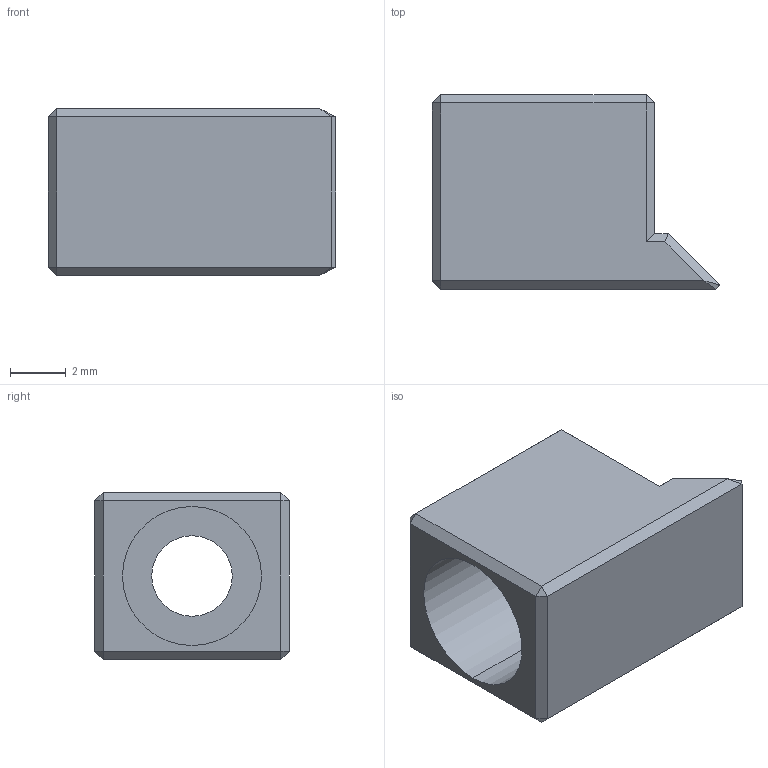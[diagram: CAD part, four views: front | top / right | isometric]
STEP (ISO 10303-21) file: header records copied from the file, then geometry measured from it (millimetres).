
FILE_DESCRIPTION (( 'STEP AP214' ), '1' );
FILE_NAME ('Ëø½ô¿é.STEP', '2026-07-03T01:31:57', ( '' ), ( '' ), 'SwSTEP 2.0', 'SolidWorks 2024', '' );
FILE_SCHEMA (( 'AUTOMOTIVE_DESIGN' ));
Length unit declared in the file: millimetre
Products named in the file (1): 锁紧块
Bounding box: 10.35 x 7 x 6 mm (x, y, z)
Volume: 212.6 mm3; surface area: 406.4 mm2
Topology: 1 solids, 1 shells, 37 faces, 74 edges, 40 vertices
Faces by surface type: plane 33, cylinder 4
Entity records: 939 total; most frequent: DIRECTION 158, CARTESIAN_POINT 152, ORIENTED_EDGE 148, EDGE_CURVE 74, VECTOR 66, LINE 66, AXIS2_PLACEMENT_3D 46, EDGE_LOOP 40
